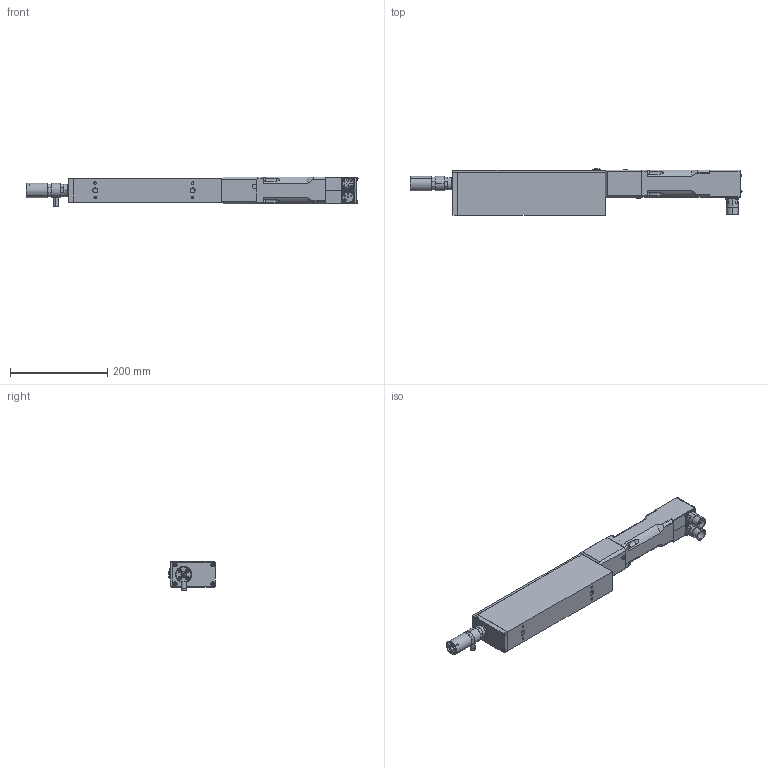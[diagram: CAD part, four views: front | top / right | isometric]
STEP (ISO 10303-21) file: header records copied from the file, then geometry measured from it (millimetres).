
FILE_DESCRIPTION (( 'STEP AP203' ), '1' );
FILE_NAME ('PR5IP010-020-030N.STEP', '2021-03-10T10:38:42', ( '' ), ( '' ), 'SwSTEP 2.0', 'SolidWorks 2021', '' );
FILE_SCHEMA (( 'CONFIG_CONTROL_DESIGN' ));
Products named in the file (1): PR5IP010-020-030N
Bounding box: 681.59 x 95.58 x 61.5 mm (x, y, z)
Volume: 1862892.9 mm3; surface area: 343970.9 mm2
Topology: 29 solids, 41 shells, 2124 faces, 4954 edges, 2929 vertices
Faces by surface type: plane 970, cylinder 601, cone 418, bspline 82, torus 40, sphere 13
Entity records: 62874 total; most frequent: CARTESIAN_POINT 15514, DIRECTION 10041, ORIENTED_EDGE 9544, EDGE_CURVE 4772, AXIS2_PLACEMENT_3D 3862, VERTEX_POINT 2916, EDGE_LOOP 2432, LINE 2317
